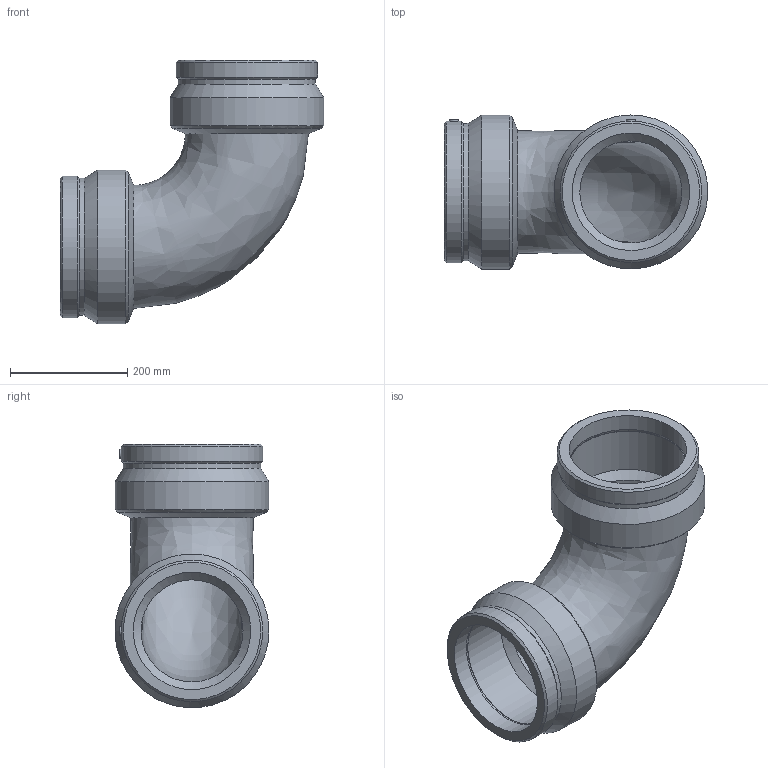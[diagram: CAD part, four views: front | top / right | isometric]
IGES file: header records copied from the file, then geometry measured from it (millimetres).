
Global section: file name: 490504200; native system: Autodesk Inventor 2026; preprocessor: unknown; author: KIM; date: 20260322.131254; units: millimetre
Bounding box: 448.92 x 262 x 448.92 mm (x, y, z)
Volume: 7840762.2 mm3; surface area: 785271.2 mm2
Topology: 1 solids, 1 shells, 42 faces, 108 edges, 76 vertices
Faces by surface type: bspline 42
